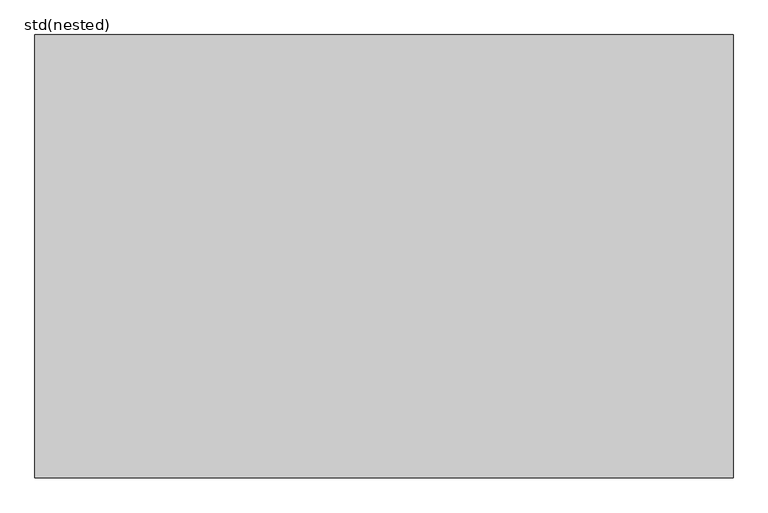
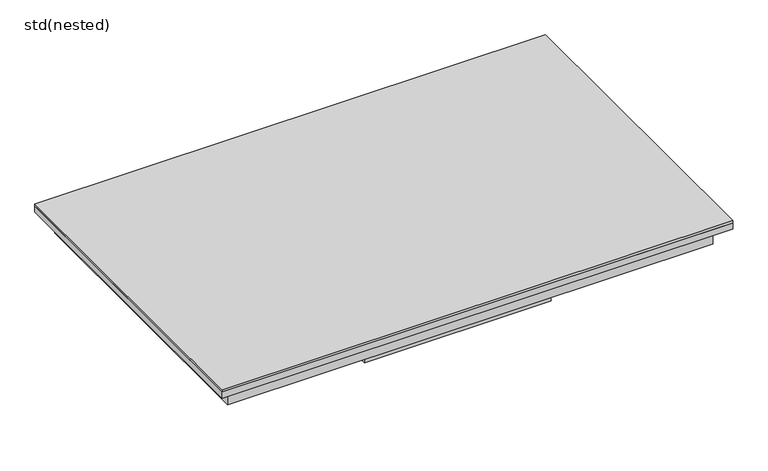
"""IFC4 building model written with IfcOpenShell, lengths in millimetres: proxy geometry, ZZZ_do_not_use_ME_ST_WPB_Access Cover SOLID GS_ACO : std(nested)."""

from ifc_helpers import new_model, si_unit, frame, origin, place, context, project, spatial, polyline, outline, extrude, faceted_brep, source, transform, mapped, element, save


def std_nested_30c2b504(model_context):
    return source(origin(), model_context, "Body", "SolidModel", [
        extrude(outline(polyline([(-475.0, 135.0), (-465.0, 135.0), (-465.0, 5.0), (465.0, 5.0), (465.0, 135.0), (475.0, 135.0), (475.0, -135.0), (465.0, -135.0), (465.0, -5.0), (-465.0, -5.0), (-465.0, -135.0), (-475.0, -135.0), (-475.0, 135.0)])), frame((0.0, 0.0, -105.0), z_axis=(0.0, 0.0, 1.0), x_axis=(1.0, 0.0, 0.0)), (0.0, 0.0, 1.0), 100.0),
        extrude(outline(polyline([(200.0, 275.0), (200.0, 265.0), (5.0, 265.0), (5.0, -265.0), (200.0, -265.0), (200.0, -275.0), (-200.0, -275.0), (-200.0, -265.0), (-5.0, -265.0), (-5.0, 265.0), (-200.0, 265.0), (-200.0, 275.0), (200.0, 275.0)])), frame((0.0, 0.0, -105.0), z_axis=(0.0, 0.0, 1.0), x_axis=(1.0, 0.0, 0.0)), (0.0, 0.0, 1.0), 100.0),
        extrude(outline(polyline([(548.0, 348.0), (548.0, -348.0), (-548.0, -348.0), (-548.0, 348.0), (548.0, 348.0)])), frame((0.0, 0.0, -5.0), z_axis=(0.0, 0.0, 1.0), x_axis=(1.0, 0.0, 0.0)), (0.0, 0.0, 1.0), 5.0),
        faceted_brep([(548.0, 348.0, -19.0), (548.0, 348.0, -5.0), (548.0, -348.0, -5.0), (548.0, -348.0, -19.0), (500.0, 300.0, -57.5), (500.0, 300.0, -59.5), (500.0, -300.0, -59.5), (500.0, -300.0, -57.5), (546.0, 346.0, -5.0), (546.0, 346.0, -17.0), (546.0, -346.0, -17.0), (546.0, -346.0, -5.0), (-548.0, -348.0, -5.0), (-548.0, -348.0, -19.0), (-500.0, -300.0, -59.5), (-500.0, -300.0, -57.5), (-546.0, -346.0, -17.0), (-546.0, -346.0, -5.0), (-548.0, 348.0, -5.0), (-548.0, 348.0, -19.0), (-500.0, 300.0, -59.5), (-500.0, 300.0, -57.5), (-546.0, 346.0, -17.0), (-546.0, 346.0, -5.0), (521.0, -321.0, -59.5), (-521.0, -321.0, -59.5), (-521.0, 321.0, -59.5), (521.0, 321.0, -59.5), (519.0, 319.0, -57.5), (-519.0, 319.0, -57.5), (-519.0, -319.0, -57.5), (519.0, -319.0, -57.5), (521.0, 321.0, -19.0), (521.0, -321.0, -19.0), (519.0, 319.0, -17.0), (519.0, -319.0, -17.0), (-521.0, -321.0, -19.0), (-519.0, -319.0, -17.0), (-521.0, 321.0, -19.0), (-519.0, 319.0, -17.0)], [[[0, 1, 2, 3]], [[4, 5, 6, 7]], [[8, 9, 10, 11]], [[3, 2, 12, 13]], [[7, 6, 14, 15]], [[11, 10, 16, 17]], [[13, 12, 18, 19]], [[15, 14, 20, 21]], [[17, 16, 22, 23]], [[1, 18, 12, 2], [11, 17, 23, 8]], [[19, 18, 1, 0]], [[24, 25, 26, 27], [5, 20, 14, 6]], [[21, 20, 5, 4]], [[28, 29, 30, 31], [7, 15, 21, 4]], [[23, 22, 9, 8]], [[27, 32, 33, 24]], [[34, 28, 31, 35]], [[24, 33, 36, 25]], [[35, 31, 30, 37]], [[25, 36, 38, 26]], [[37, 30, 29, 39]], [[3, 13, 19, 0], [32, 38, 36, 33]], [[26, 38, 32, 27]], [[39, 29, 28, 34]], [[9, 22, 16, 10], [35, 37, 39, 34]]]),
    ])


if __name__ == "__main__":
    model = new_model("IFC4")
    model_context = context("Model", 3, world=origin())
    ifc_project = project(units=[si_unit("LENGTHUNIT", "METRE", prefix="MILLI")], contexts=[model_context])
    site = spatial("IfcSite", under=ifc_project)
    building = spatial("IfcBuilding", under=site)
    placement = place(None, origin())
    std_nested_shape = std_nested_30c2b504(model_context)
    element("IfcBuildingElementProxy", 1, Name="ZZZ_do_not_use_ME_ST_WPB_Access Cover SOLID GS_ACO : std(nested)", ObjectType="ZZZ_do_not_use_ME_ST_WPB_Access Cover SOLID GS_ACO : std(nested)", at=placement, inside=building, context=model_context, shape_type="MappedRepresentation", body=[
        mapped(std_nested_shape, transform((0.0, 0.0, 0.0), x_axis=(1.0, 0.0, 0.0), y_axis=(0.0, 1.0, 0.0), z_axis=(0.0, 0.0, 1.0))),
    ])
    save(model, "model.ifc")
